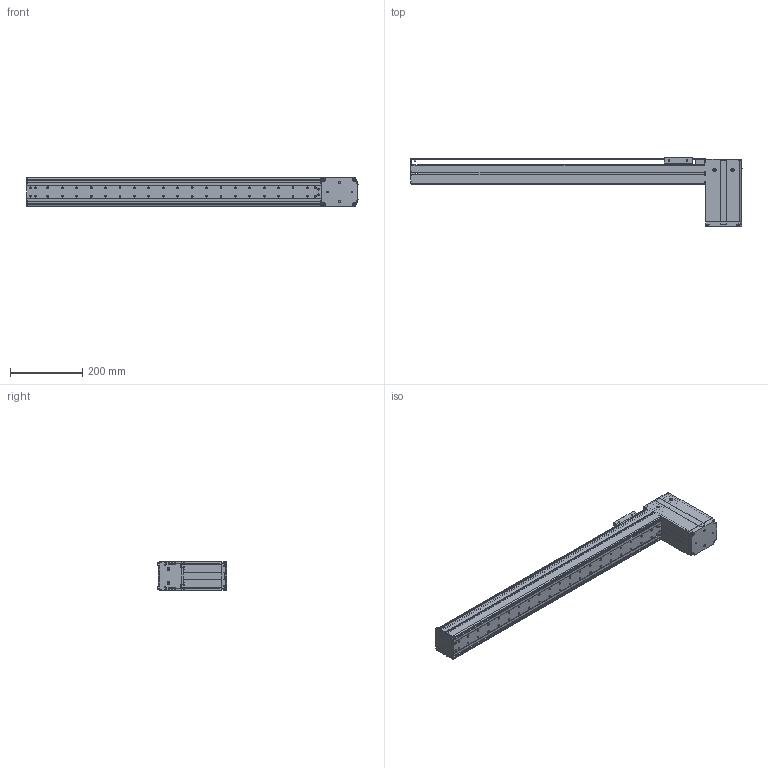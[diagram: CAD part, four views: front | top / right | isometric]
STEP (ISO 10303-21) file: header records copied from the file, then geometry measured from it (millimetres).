
FILE_DESCRIPTION((''),'2;1');
FILE_NAME('BE10_-BU-S_N-65_IGS_PRT','2017-06-18T',(' '),(''),'PRO/ENGINEER BY PARAMETRIC TECHNOLOGY CORPORATION, 2015030','PRO/ENGINEER BY PARAMETRIC TECHNOLOGY CORPORATION, 2015030','');
FILE_SCHEMA(('CONFIG_CONTROL_DESIGN'));
Length unit declared in the file: millimetre
Products named in the file (1): BE10_-BU-S_N-65_IGS_PRT
Bounding box: 920.8 x 192.72 x 78 mm (x, y, z)
Volume: 1170422.7 mm3; surface area: 837294.8 mm2
Topology: 3 solids, 120 shells, 1911 faces, 5195 edges, 3415 vertices
Faces by surface type: plane 910, cylinder 840, cone 119, sphere 21, torus 19, bspline 2
Entity records: 61816 total; most frequent: CARTESIAN_POINT 12470, DIRECTION 10509, ORIENTED_EDGE 9866, EDGE_CURVE 5141, AXIS2_PLACEMENT_3D 3739, VERTEX_POINT 3415, VECTOR 3031, LINE 3031
